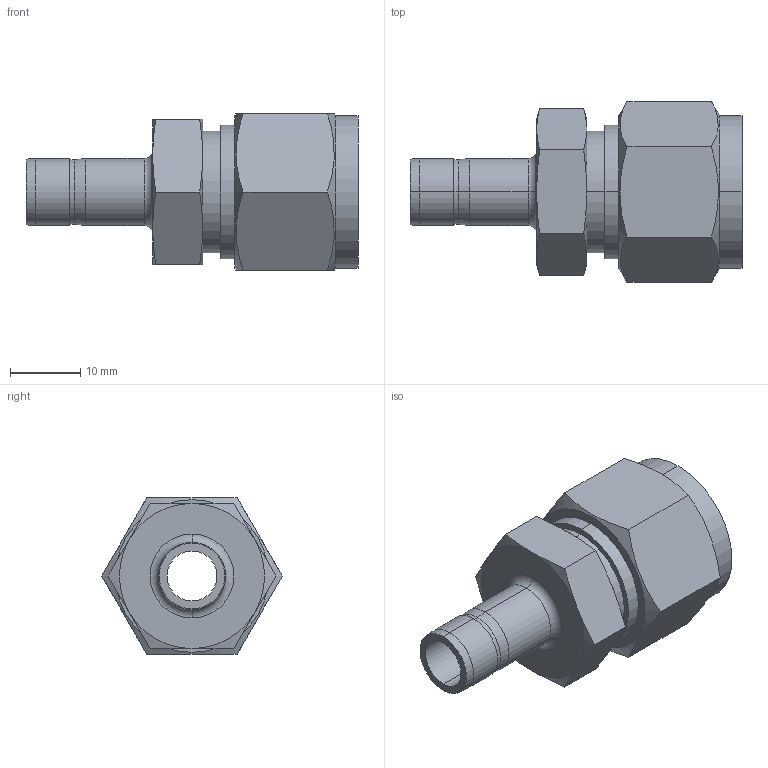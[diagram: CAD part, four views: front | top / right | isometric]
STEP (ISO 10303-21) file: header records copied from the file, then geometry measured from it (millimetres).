
FILE_DESCRIPTION (( 'STEP AP203' ), '1' );
FILE_NAME ('DRE08-06 SS.STEP', '2009-09-08T08:38:14', ( ' ' ), ( '' ), 'SwSTEP 2.0', 'SolidWorks 2008', '' );
FILE_SCHEMA (( 'CONFIG_CONTROL_DESIGN' ));
Length unit declared in the file: millimetre
Products named in the file (1): DRE08-06 SS
Bounding box: 47.2 x 25.67 x 22.23 mm (x, y, z)
Volume: 8361.4 mm3; surface area: 5045 mm2
Topology: 1 solids, 1 shells, 63 faces, 138 edges, 82 vertices
Faces by surface type: cone 24, plane 19, cylinder 18, torus 2
Entity records: 1965 total; most frequent: CARTESIAN_POINT 540, DIRECTION 282, ORIENTED_EDGE 276, EDGE_CURVE 138, AXIS2_PLACEMENT_3D 120, VERTEX_POINT 82, EDGE_LOOP 70, ADVANCED_FACE 63
